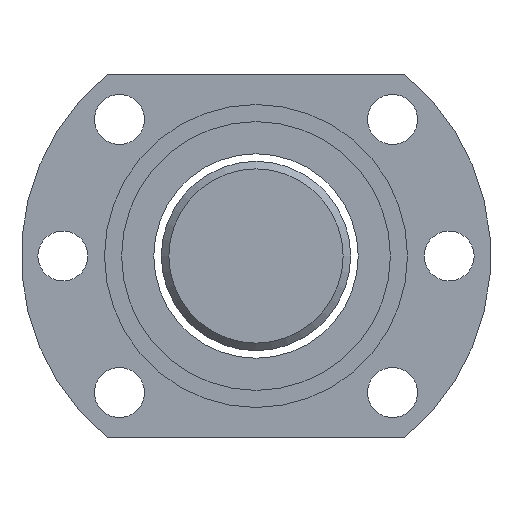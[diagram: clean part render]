
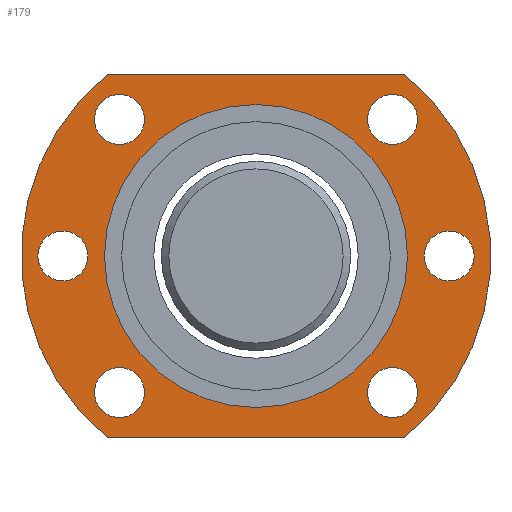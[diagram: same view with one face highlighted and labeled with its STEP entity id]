
A CAD part, left-side view. The second image highlights one B-rep face of the part: STEP entity #179.
In plain terms, the highlighted planar face has unit normal (-1, 0, 0).
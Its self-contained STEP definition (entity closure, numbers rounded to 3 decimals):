
#105=LINE('',#1156,#113);
#106=LINE('',#1160,#114);
#113=VECTOR('',#962,1.);
#114=VECTOR('',#965,1.);
#179=ADVANCED_FACE('',(#283,#284,#285,#286,#287,#288,#289,#290),#216,.T.);
#216=PLANE('',#798);
#283=FACE_BOUND('',#383,.T.);
#284=FACE_BOUND('',#384,.T.);
#285=FACE_BOUND('',#385,.T.);
#286=FACE_BOUND('',#386,.T.);
#287=FACE_BOUND('',#387,.T.);
#288=FACE_BOUND('',#388,.T.);
#289=FACE_BOUND('',#389,.T.);
#290=FACE_BOUND('',#390,.T.);
#383=EDGE_LOOP('',(#492));
#384=EDGE_LOOP('',(#493));
#385=EDGE_LOOP('',(#494,#495,#496,#497));
#386=EDGE_LOOP('',(#498));
#387=EDGE_LOOP('',(#499));
#388=EDGE_LOOP('',(#500));
#389=EDGE_LOOP('',(#501));
#390=EDGE_LOOP('',(#502));
#492=ORIENTED_EDGE('',*,*,#649,.T.);
#493=ORIENTED_EDGE('',*,*,#638,.F.);
#494=ORIENTED_EDGE('',*,*,#650,.T.);
#495=ORIENTED_EDGE('',*,*,#651,.T.);
#496=ORIENTED_EDGE('',*,*,#652,.T.);
#497=ORIENTED_EDGE('',*,*,#653,.T.);
#498=ORIENTED_EDGE('',*,*,#654,.F.);
#499=ORIENTED_EDGE('',*,*,#655,.F.);
#500=ORIENTED_EDGE('',*,*,#656,.F.);
#501=ORIENTED_EDGE('',*,*,#657,.T.);
#502=ORIENTED_EDGE('',*,*,#658,.T.);
#580=VERTEX_POINT('',#1128);
#591=VERTEX_POINT('',#1152);
#592=VERTEX_POINT('',#1154);
#593=VERTEX_POINT('',#1155);
#594=VERTEX_POINT('',#1157);
#595=VERTEX_POINT('',#1159);
#596=VERTEX_POINT('',#1162);
#597=VERTEX_POINT('',#1164);
#598=VERTEX_POINT('',#1166);
#599=VERTEX_POINT('',#1168);
#600=VERTEX_POINT('',#1170);
#638=EDGE_CURVE('',#580,#580,#700,.T.);
#649=EDGE_CURVE('',#591,#591,#709,.T.);
#650=EDGE_CURVE('',#592,#593,#710,.T.);
#651=EDGE_CURVE('',#593,#594,#105,.T.);
#652=EDGE_CURVE('',#594,#595,#711,.T.);
#653=EDGE_CURVE('',#595,#592,#106,.T.);
#654=EDGE_CURVE('',#596,#596,#712,.T.);
#655=EDGE_CURVE('',#597,#597,#713,.T.);
#656=EDGE_CURVE('',#598,#598,#714,.T.);
#657=EDGE_CURVE('',#599,#599,#715,.T.);
#658=EDGE_CURVE('',#600,#600,#716,.T.);
#700=CIRCLE('',#779,20.);
#709=CIRCLE('',#790,3.3);
#710=CIRCLE('',#791,31.);
#711=CIRCLE('',#792,31.);
#712=CIRCLE('',#793,3.3);
#713=CIRCLE('',#794,3.3);
#714=CIRCLE('',#795,3.3);
#715=CIRCLE('',#796,3.3);
#716=CIRCLE('',#797,3.3);
#779=AXIS2_PLACEMENT_3D('',#1127,#934,#935);
#790=AXIS2_PLACEMENT_3D('',#1151,#958,#959);
#791=AXIS2_PLACEMENT_3D('',#1153,#960,#961);
#792=AXIS2_PLACEMENT_3D('',#1158,#963,#964);
#793=AXIS2_PLACEMENT_3D('',#1161,#966,#967);
#794=AXIS2_PLACEMENT_3D('',#1163,#968,#969);
#795=AXIS2_PLACEMENT_3D('',#1165,#970,#971);
#796=AXIS2_PLACEMENT_3D('',#1167,#972,#973);
#797=AXIS2_PLACEMENT_3D('',#1169,#974,#975);
#798=AXIS2_PLACEMENT_3D('',#1171,#976,#977);
#934=DIRECTION('',(-1.,0.,0.));
#935=DIRECTION('',(0.,0.,-1.));
#958=DIRECTION('',(1.,0.,0.));
#959=DIRECTION('',(0.,0.,1.));
#960=DIRECTION('',(-1.,0.,0.));
#961=DIRECTION('',(0.,0.,-1.));
#962=DIRECTION('',(0.,-1.,0.));
#963=DIRECTION('',(-1.,0.,0.));
#964=DIRECTION('',(0.,0.,-1.));
#965=DIRECTION('',(0.,1.,0.));
#966=DIRECTION('',(-1.,0.,0.));
#967=DIRECTION('',(0.,0.,1.));
#968=DIRECTION('',(-1.,0.,0.));
#969=DIRECTION('',(0.,0.,1.));
#970=DIRECTION('',(-1.,0.,0.));
#971=DIRECTION('',(0.,0.,1.));
#972=DIRECTION('',(1.,0.,0.));
#973=DIRECTION('',(0.,0.,1.));
#974=DIRECTION('',(1.,0.,0.));
#975=DIRECTION('',(0.,0.,1.));
#976=DIRECTION('',(-1.,0.,0.));
#977=DIRECTION('',(0.,0.,1.));
#1127=CARTESIAN_POINT('',(-20.086,-15.436,6.987));
#1128=CARTESIAN_POINT('',(-20.086,-15.436,-13.013));
#1151=CARTESIAN_POINT('',(-20.086,-40.936,6.987));
#1152=CARTESIAN_POINT('',(-20.086,-40.936,10.287));
#1153=CARTESIAN_POINT('',(-20.086,-15.436,6.987));
#1154=CARTESIAN_POINT('',(-20.086,4.185,30.987));
#1155=CARTESIAN_POINT('',(-20.086,4.185,-17.013));
#1156=CARTESIAN_POINT('',(-20.086,4.185,-17.013));
#1157=CARTESIAN_POINT('',(-20.086,-35.057,-17.013));
#1158=CARTESIAN_POINT('',(-20.086,-15.436,6.987));
#1159=CARTESIAN_POINT('',(-20.086,-35.057,30.987));
#1160=CARTESIAN_POINT('',(-20.086,-35.057,30.987));
#1161=CARTESIAN_POINT('',(-20.086,10.064,6.987));
#1162=CARTESIAN_POINT('',(-20.086,10.064,10.287));
#1163=CARTESIAN_POINT('',(-20.086,2.595,25.018));
#1164=CARTESIAN_POINT('',(-20.086,2.595,28.318));
#1165=CARTESIAN_POINT('',(-20.086,2.595,-11.044));
#1166=CARTESIAN_POINT('',(-20.086,2.595,-7.744));
#1167=CARTESIAN_POINT('',(-20.086,-33.467,-11.044));
#1168=CARTESIAN_POINT('',(-20.086,-33.467,-7.744));
#1169=CARTESIAN_POINT('',(-20.086,-33.467,25.018));
#1170=CARTESIAN_POINT('',(-20.086,-33.467,28.318));
#1171=CARTESIAN_POINT('',(-20.086,-15.436,6.987));
